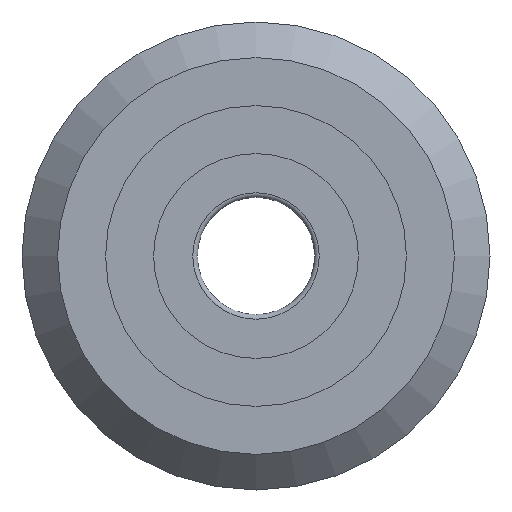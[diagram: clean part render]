
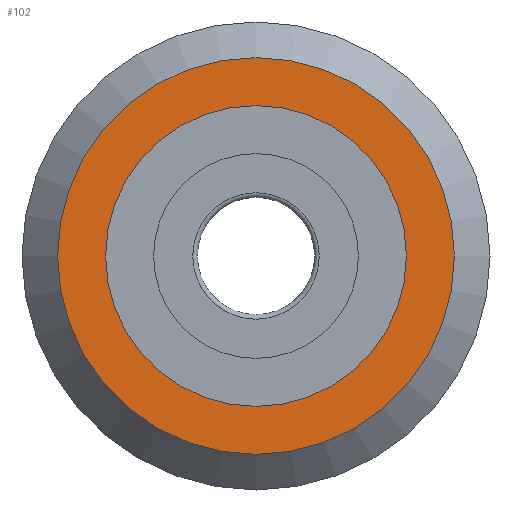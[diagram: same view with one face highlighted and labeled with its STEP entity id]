
A CAD part, front view. The second image highlights one B-rep face of the part: STEP entity #102.
In plain terms, the highlighted planar face has unit normal (0, -1, 0).
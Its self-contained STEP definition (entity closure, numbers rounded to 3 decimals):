
#102=ADVANCED_FACE('',(#143,#144),#145,.F.);
#143=FACE_OUTER_BOUND('',#209,.T.);
#144=FACE_BOUND('',#210,.T.);
#145=PLANE('',#211);
#209=EDGE_LOOP('',(#293));
#210=EDGE_LOOP('',(#294));
#211=AXIS2_PLACEMENT_3D('',#295,#296,#297);
#293=ORIENTED_EDGE('',*,*,#369,.T.);
#294=ORIENTED_EDGE('',*,*,#370,.F.);
#295=CARTESIAN_POINT('',(-25.405,-9.525,0.0));
#296=DIRECTION('',(-0.0,1.0,0.0));
#297=DIRECTION('',(1.0,0.0,0.0));
#369=EDGE_CURVE('',#402,#402,#403,.T.);
#370=EDGE_CURVE('',#404,#404,#405,.T.);
#402=VERTEX_POINT('',#446);
#403=CIRCLE('',#447,25.405);
#404=VERTEX_POINT('',#448);
#405=CIRCLE('',#449,19.26);
#446=CARTESIAN_POINT('',(0.0,-9.525,-25.405));
#447=AXIS2_PLACEMENT_3D('',#501,#502,#503);
#448=CARTESIAN_POINT('',(0.0,-9.525,-19.26));
#449=AXIS2_PLACEMENT_3D('',#504,#505,#506);
#501=CARTESIAN_POINT('',(0.0,-9.525,0.0));
#502=DIRECTION('',(0.0,-1.0,0.0));
#503=DIRECTION('',(0.0,0.0,-1.0));
#504=CARTESIAN_POINT('',(0.0,-9.525,0.0));
#505=DIRECTION('',(0.0,-1.0,0.0));
#506=DIRECTION('',(0.0,0.0,-1.0));
